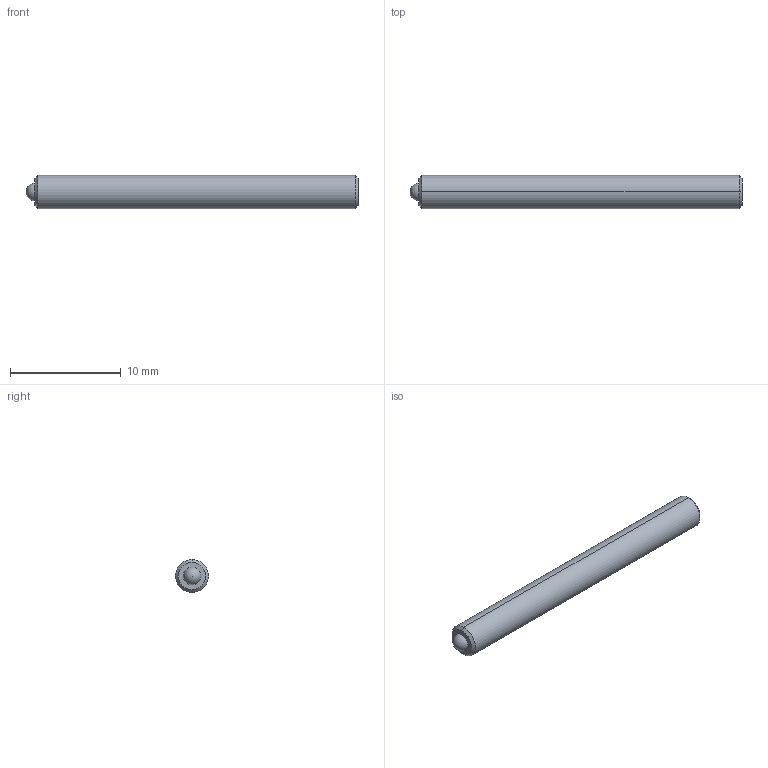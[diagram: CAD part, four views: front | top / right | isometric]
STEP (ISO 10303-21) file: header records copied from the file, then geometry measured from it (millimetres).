
FILE_DESCRIPTION (( 'STEP AP214' ), '1' );
FILE_NAME ('TS3-25-30.STEP', '2013-02-13T16:14:30', ( 'workpc' ), ( 'Microsoft' ), 'SwSTEP 2.0', 'SolidWorks 2013', '' );
FILE_SCHEMA (( 'AUTOMOTIVE_DESIGN' ));
Length unit declared in the file: millimetre
Products named in the file (1): TS3-25-30
Bounding box: 30 x 3 x 3 mm (x, y, z)
Volume: 202.5 mm3; surface area: 308.8 mm2
Topology: 2 solids, 2 shells, 20 faces, 45 edges, 29 vertices
Faces by surface type: plane 10, cylinder 4, cone 4, sphere 2
Entity records: 587 total; most frequent: DIRECTION 96, CARTESIAN_POINT 87, ORIENTED_EDGE 80, EDGE_CURVE 40, AXIS2_PLACEMENT_3D 35, VERTEX_POINT 26, VECTOR 26, LINE 26
